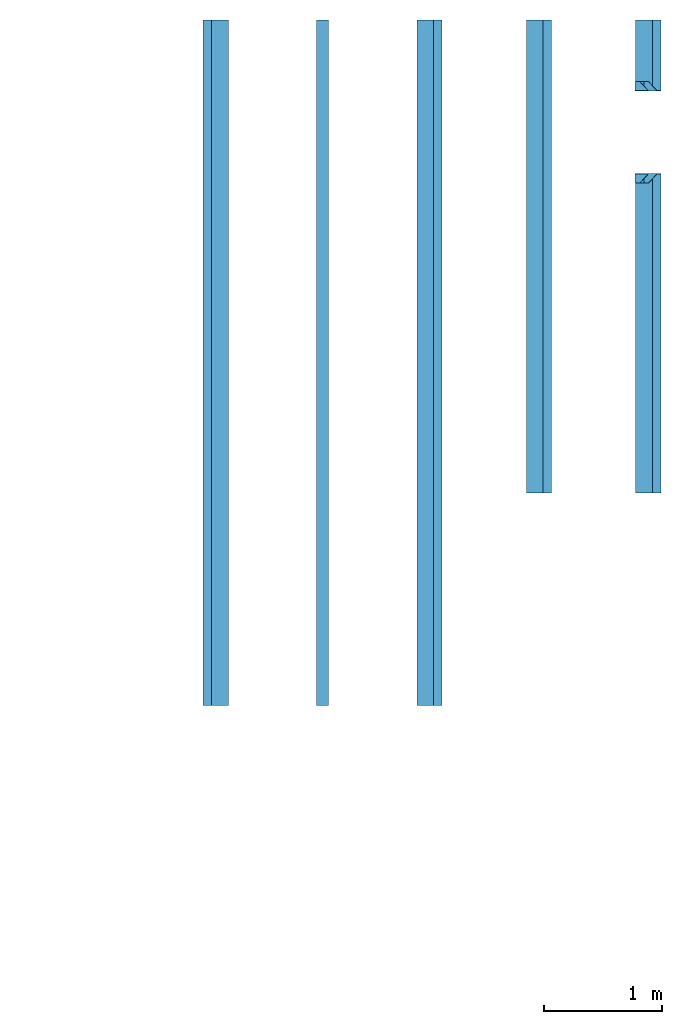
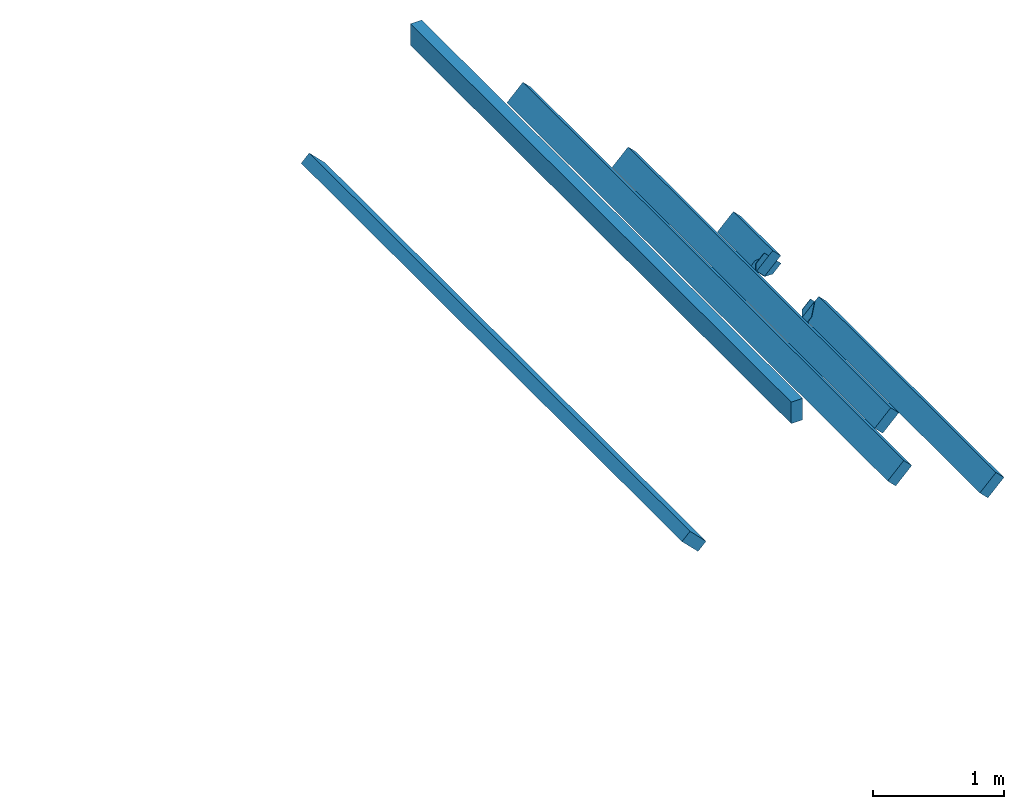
# Not in any storey, part 1 of 2: 6 beams, 2 discrete accessories, 1 element without a shape of its own.
"""IFC4 building model written with IfcOpenShell, lengths in millimetres."""

from ifc_helpers import new_model, si_unit, frame, origin_with_axes, place, context, subcontext, project, spatial, triangles, material, type_object, element, aggregate, save


model = new_model("IFC4")

# Units and contexts
model_context = context("Model", 3, world=origin_with_axes())
body_context = subcontext(model_context, "Body", "Model", "MODEL_VIEW")
ifc_project = project(units=[si_unit("LENGTHUNIT", "METRE", prefix="MILLI"), si_unit("AREAUNIT", "SQUARE_METRE"), si_unit("VOLUMEUNIT", "CUBIC_METRE")], contexts=[model_context])

# Sites, building
site_1_placement = place(None, origin_with_axes())
site_1 = spatial("IfcSite", under=ifc_project, at=site_1_placement, Name="environment - site", CompositionType="COMPLEX")
site_2_placement = place(site_1_placement, frame((5800.000000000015, 5800.000000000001, -1300.0000000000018), z_axis=(0.0, 0.0, 1.0), x_axis=(1.0, 0.0, 0.0)))
site_2 = spatial("IfcSite", under=site_1, at=site_2_placement, Name="house - site", CompositionType="PARTIAL")
building_placement = place(site_2_placement, frame((-2799.999999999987, -2799.9999999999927, 1300.0), z_axis=(0.0, 0.0, 1.0), x_axis=(1.0, 0.0, 0.0)))
building = spatial("IfcBuilding", under=site_2, at=building_placement, Name="Single-family house", CompositionType="ELEMENT")

# Roof, beams, discrete accessories
roof_type = type_object("IfcRoofType", Name="house - roof", PredefinedType="GABLE_ROOF")
roof_placement = place(building_placement, frame((-1.1550582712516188e-11, -2.3101165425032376e-11, 1800.0000000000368), z_axis=(0.0, 0.0, 1.0), x_axis=(1.0, 0.0, 0.0)))
roof = element("IfcRoof", 1, at=roof_placement, inside=building, type_object=roof_type, Name="house - roof", ObjectType="gable_roof")
ifc_material_1 = material(Name="wood_spruce_beam")
beam_type = type_object("IfcBeamType", Name="house - girder", PredefinedType="USERDEFINED")
beam_1_placement = place(roof_placement, frame((4748.22330470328, 1900.0000000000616, 544.6699141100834), z_axis=(5.962308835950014e-17, -1.0, -4.506746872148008e-17), x_axis=(0.7071067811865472, 0.0, -0.707106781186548)))
beam_1 = element("IfcBeam", 2, at=beam_1_placement, type_object=beam_type, material=ifc_material_1, Name="girder", ObjectType="girder_segment", context=body_context, shape_type="Tessellation", body=[
    triangles([(100.00000000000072, 200.00000000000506, -2699.9999999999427), (100.00000000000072, 1.4438228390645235e-12, 0.0), (99.99999999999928, -7.219114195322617e-13, -2699.9999999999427), (99.99999999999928, 200.00000000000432, 0.0), (100.00000000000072, 1.4438228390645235e-12, 0.0), (50.00000000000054, 1.4438228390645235e-12, -2699.9999999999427), (99.99999999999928, -7.219114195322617e-13, -2699.9999999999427), (-1.0828671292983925e-12, 1.7872629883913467e-29, -2699.9999999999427), (3.6095570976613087e-13, 1.4438228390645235e-12, 0.0), (49.9999999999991, 1.4438228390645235e-12, 0.0), (3.6095570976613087e-13, 1.4438228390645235e-12, 0.0), (3.6095570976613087e-13, 200.00000000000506, -2699.9999999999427), (-1.0828671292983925e-12, 1.7872629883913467e-29, -2699.9999999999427), (-1.0828671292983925e-12, 200.00000000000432, 0.0), (-1.0828671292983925e-12, 200.00000000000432, 0.0), (100.00000000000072, 200.00000000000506, -2699.9999999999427), (3.6095570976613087e-13, 200.00000000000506, -2699.9999999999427), (99.99999999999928, 200.00000000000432, 0.0), (3.6095570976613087e-13, 200.00000000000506, -2699.9999999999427), (50.00000000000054, 1.4438228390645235e-12, -2699.9999999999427), (-1.0828671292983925e-12, 1.7872629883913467e-29, -2699.9999999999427), (100.00000000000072, 200.00000000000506, -2699.9999999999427), (99.99999999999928, -7.219114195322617e-13, -2699.9999999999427), (3.6095570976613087e-13, 1.4438228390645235e-12, 0.0), (99.99999999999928, 200.00000000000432, 0.0), (-1.0828671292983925e-12, 200.00000000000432, 0.0), (49.9999999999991, 1.4438228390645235e-12, 0.0), (100.00000000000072, 1.4438228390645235e-12, 0.0)], [[1, 2, 3], [2, 1, 4], [5, 6, 7], [6, 5, 8], [8, 5, 9], [9, 5, 10], [11, 12, 13], [12, 11, 14], [15, 16, 17], [16, 15, 18], [19, 20, 21], [20, 19, 22], [20, 22, 23], [24, 25, 26], [25, 24, 27], [25, 27, 28]]),
])
beam_2_placement = place(roof_placement, frame((2968.9339828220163, 99.99999999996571, 2323.959235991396), z_axis=(-5.551115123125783e-17, -1.0, 3.925231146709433e-17), x_axis=(-0.7071067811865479, 6.700788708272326e-17, 0.7071067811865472)))
beam_2 = element("IfcBeam", 3, at=beam_2_placement, type_object=beam_type, material=ifc_material_1, Name="girder", ObjectType="girder_segment", context=body_context, shape_type="Tessellation", body=[
    triangles([(100.00000000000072, -200.00000000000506, -5799.999999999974), (100.00000000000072, -1.4438228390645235e-12, -6.162975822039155e-31), (99.99999999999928, 7.219114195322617e-13, -5799.999999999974), (99.99999999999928, -200.00000000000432, 1.7796490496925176e-44), (100.00000000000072, -1.4438228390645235e-12, -6.162975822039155e-31), (50.00000000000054, -1.4438228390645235e-12, -5799.999999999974), (99.99999999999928, 7.219114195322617e-13, -5799.999999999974), (-1.0828671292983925e-12, 0.0, -5799.999999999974), (3.6095570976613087e-13, -1.4438228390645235e-12, 2.224561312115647e-45), (49.9999999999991, -1.4438228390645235e-12, -3.081487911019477e-31), (3.6095570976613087e-13, -1.4438228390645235e-12, 2.224561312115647e-45), (3.609557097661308e-13, -200.00000000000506, -5799.999999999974), (-1.0828671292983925e-12, 0.0, -5799.999999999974), (-1.0828671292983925e-12, -200.00000000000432, 6.162975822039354e-31), (-1.0828671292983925e-12, -200.00000000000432, 6.162975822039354e-31), (100.00000000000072, -200.00000000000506, -5799.999999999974), (3.609557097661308e-13, -200.00000000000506, -5799.999999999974), (99.99999999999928, -200.00000000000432, 1.7796490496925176e-44), (3.609557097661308e-13, -200.00000000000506, -5799.999999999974), (50.00000000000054, -1.4438228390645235e-12, -5799.999999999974), (-1.0828671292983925e-12, 0.0, -5799.999999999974), (100.00000000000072, -200.00000000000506, -5799.999999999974), (99.99999999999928, 7.219114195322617e-13, -5799.999999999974), (3.6095570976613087e-13, -1.4438228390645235e-12, 2.224561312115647e-45), (99.99999999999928, -200.00000000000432, 1.7796490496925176e-44), (-1.0828671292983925e-12, -200.00000000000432, 6.162975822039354e-31), (49.9999999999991, -1.4438228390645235e-12, -3.081487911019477e-31), (100.00000000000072, -1.4438228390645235e-12, -6.162975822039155e-31)], [[3, 2, 1], [4, 1, 2], [7, 6, 5], [8, 5, 6], [9, 5, 8], [10, 5, 9], [13, 12, 11], [14, 11, 12], [17, 16, 15], [18, 15, 16], [21, 20, 19], [22, 19, 20], [23, 22, 20], [26, 25, 24], [27, 24, 25], [28, 27, 25]]),
])
beam_3_placement = place(roof_placement, frame((4748.22330470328, 5300.000000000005, 544.6699141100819), z_axis=(3.353798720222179e-16, -1.0, -3.4018669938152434e-16), x_axis=(0.7071067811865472, -5.551115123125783e-17, -0.707106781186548)))
beam_3 = element("IfcBeam", 4, at=beam_3_placement, type_object=beam_type, material=ifc_material_1, Name="girder", ObjectType="girder_segment", context=body_context, shape_type="Tessellation", body=[
    triangles([(100.00000000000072, 200.00000000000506, -599.9999999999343), (100.00000000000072, 1.4438228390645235e-12, 0.0), (99.99999999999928, -7.219114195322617e-13, -599.9999999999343), (99.99999999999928, 200.00000000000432, 0.0), (100.00000000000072, 1.4438228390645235e-12, 0.0), (50.00000000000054, 1.4438228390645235e-12, -599.9999999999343), (99.99999999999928, -7.219114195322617e-13, -599.9999999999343), (-1.0828671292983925e-12, 0.0, -599.9999999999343), (3.6095570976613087e-13, 1.4438228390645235e-12, 0.0), (49.9999999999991, 1.4438228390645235e-12, 0.0), (3.6095570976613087e-13, 1.4438228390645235e-12, 0.0), (3.6095570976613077e-13, 200.00000000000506, -599.9999999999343), (-1.0828671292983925e-12, 0.0, -599.9999999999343), (-1.0828671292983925e-12, 200.00000000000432, 0.0), (-1.0828671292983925e-12, 200.00000000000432, 0.0), (100.00000000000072, 200.00000000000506, -599.9999999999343), (3.6095570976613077e-13, 200.00000000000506, -599.9999999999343), (99.99999999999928, 200.00000000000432, 0.0), (3.6095570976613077e-13, 200.00000000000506, -599.9999999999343), (50.00000000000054, 1.4438228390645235e-12, -599.9999999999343), (-1.0828671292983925e-12, 0.0, -599.9999999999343), (100.00000000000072, 200.00000000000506, -599.9999999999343), (99.99999999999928, -7.219114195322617e-13, -599.9999999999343), (3.6095570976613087e-13, 1.4438228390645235e-12, 0.0), (99.99999999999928, 200.00000000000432, 0.0), (-1.0828671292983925e-12, 200.00000000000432, 0.0), (49.9999999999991, 1.4438228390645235e-12, 0.0), (100.00000000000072, 1.4438228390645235e-12, 0.0)], [[1, 2, 3], [2, 1, 4], [5, 6, 7], [6, 5, 8], [8, 5, 9], [9, 5, 10], [11, 12, 13], [12, 11, 14], [15, 16, 17], [16, 15, 18], [19, 20, 21], [20, 19, 22], [20, 22, 23], [24, 25, 26], [25, 24, 27], [25, 27, 28]]),
])
beam_4_placement = place(roof_placement, frame((3823.2233047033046, 1900.0000000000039, 1469.6699141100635), z_axis=(0.0, -1.0, -1.7663540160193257e-17), x_axis=(0.7071067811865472, 0.0, -0.707106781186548)))
beam_4 = element("IfcBeam", 5, at=beam_4_placement, type_object=beam_type, material=ifc_material_1, Name="girder", ObjectType="girder_segment", context=body_context, shape_type="Tessellation", body=[
    triangles([(100.00000000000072, 200.00000000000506, -3999.9999999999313), (100.00000000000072, 1.4438228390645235e-12, 0.0), (99.99999999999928, -7.219114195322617e-13, -3999.9999999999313), (99.99999999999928, 200.00000000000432, 0.0), (100.00000000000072, 1.4438228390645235e-12, 0.0), (50.00000000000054, 1.4438228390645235e-12, -3999.9999999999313), (99.99999999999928, -7.219114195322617e-13, -3999.9999999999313), (-1.0828671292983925e-12, 0.0, -3999.9999999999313), (3.6095570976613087e-13, 1.4438228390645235e-12, 0.0), (49.9999999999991, 1.4438228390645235e-12, 0.0), (3.6095570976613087e-13, 1.4438228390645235e-12, 0.0), (3.6095570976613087e-13, 200.00000000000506, -3999.9999999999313), (-1.0828671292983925e-12, 0.0, -3999.9999999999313), (-1.0828671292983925e-12, 200.00000000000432, 0.0), (-1.0828671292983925e-12, 200.00000000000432, 0.0), (100.00000000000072, 200.00000000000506, -3999.9999999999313), (3.6095570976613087e-13, 200.00000000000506, -3999.9999999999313), (99.99999999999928, 200.00000000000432, 0.0), (3.6095570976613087e-13, 200.00000000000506, -3999.9999999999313), (50.00000000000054, 1.4438228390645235e-12, -3999.9999999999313), (-1.0828671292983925e-12, 0.0, -3999.9999999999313), (100.00000000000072, 200.00000000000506, -3999.9999999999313), (99.99999999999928, -7.219114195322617e-13, -3999.9999999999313), (3.6095570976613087e-13, 1.4438228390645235e-12, 0.0), (99.99999999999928, 200.00000000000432, 0.0), (-1.0828671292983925e-12, 200.00000000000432, 0.0), (49.9999999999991, 1.4438228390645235e-12, 0.0), (100.00000000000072, 1.4438228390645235e-12, 0.0)], [[1, 2, 3], [2, 1, 4], [5, 6, 7], [6, 5, 8], [8, 5, 9], [9, 5, 10], [11, 12, 13], [12, 11, 14], [15, 16, 17], [16, 15, 18], [19, 20, 21], [20, 19, 22], [20, 22, 23], [24, 25, 26], [25, 24, 27], [25, 27, 28]]),
])
beam_5_placement = place(roof_placement, frame((2050.0000000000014, 99.99999999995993, 3225.7359312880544), z_axis=(5.551115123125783e-17, -1.0, -2.3801837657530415e-32), x_axis=(1.0, 5.551115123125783e-17, -8.881784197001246e-16)))
beam_5 = element("IfcBeam", 6, at=beam_5_placement, type_object=beam_type, material=ifc_material_1, Name="girder", ObjectType="girder_segment", context=body_context, shape_type="Tessellation", body=[
    triangles([(100.00000000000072, 200.00000000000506, -5799.999999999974), (100.00000000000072, 1.4438228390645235e-12, 2.114027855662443e-45), (99.99999999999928, -7.219114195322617e-13, -5799.999999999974), (99.99999999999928, 200.00000000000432, 2.1140278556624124e-45), (100.00000000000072, 1.4438228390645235e-12, 2.114027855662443e-45), (50.00000000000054, 1.4438228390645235e-12, -5799.999999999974), (99.99999999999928, -7.219114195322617e-13, -5799.999999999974), (-1.0828671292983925e-12, 1.5874084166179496e-44, -5799.999999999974), (3.6095570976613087e-13, 1.4438228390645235e-12, 7.630704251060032e-60), (49.9999999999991, 1.4438228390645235e-12, 1.0570139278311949e-45), (3.6095570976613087e-13, 1.4438228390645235e-12, 7.630704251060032e-60), (3.6095570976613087e-13, 200.00000000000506, -5799.999999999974), (-1.0828671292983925e-12, 1.5874084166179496e-44, -5799.999999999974), (-1.0828671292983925e-12, 200.00000000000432, -2.2892112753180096e-59), (-1.0828671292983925e-12, 200.00000000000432, -2.2892112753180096e-59), (100.00000000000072, 200.00000000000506, -5799.999999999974), (3.6095570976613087e-13, 200.00000000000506, -5799.999999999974), (99.99999999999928, 200.00000000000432, 2.1140278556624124e-45), (3.6095570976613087e-13, 200.00000000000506, -5799.999999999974), (50.00000000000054, 1.4438228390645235e-12, -5799.999999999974), (-1.0828671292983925e-12, 1.5874084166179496e-44, -5799.999999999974), (100.00000000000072, 200.00000000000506, -5799.999999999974), (99.99999999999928, -7.219114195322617e-13, -5799.999999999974), (3.6095570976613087e-13, 1.4438228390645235e-12, 7.630704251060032e-60), (99.99999999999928, 200.00000000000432, 2.1140278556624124e-45), (-1.0828671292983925e-12, 200.00000000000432, -2.2892112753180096e-59), (49.9999999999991, 1.4438228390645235e-12, 1.0570139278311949e-45), (100.00000000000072, 1.4438228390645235e-12, 2.114027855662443e-45)], [[1, 2, 3], [2, 1, 4], [5, 6, 7], [6, 5, 8], [8, 5, 9], [9, 5, 10], [11, 12, 13], [12, 11, 14], [15, 16, 17], [16, 15, 18], [19, 20, 21], [20, 19, 22], [20, 22, 23], [24, 25, 26], [25, 24, 27], [25, 27, 28]]),
])
beam_6_placement = place(roof_placement, frame((1231.06601717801, 99.99999999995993, 2323.9592359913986), z_axis=(0.0, -1.0, 1.880229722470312e-33), x_axis=(0.7071067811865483, 1.3295231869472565e-33, 0.7071067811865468)))
beam_6 = element("IfcBeam", 7, at=beam_6_placement, type_object=beam_type, material=ifc_material_1, Name="girder", ObjectType="girder_segment", context=body_context, shape_type="Tessellation", body=[
    triangles([(100.00000000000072, 200.00000000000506, -5799.999999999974), (100.00000000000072, 1.4438228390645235e-12, 0.0), (99.99999999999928, -7.219114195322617e-13, -5799.999999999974), (99.99999999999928, 200.00000000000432, 0.0), (100.00000000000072, 1.4438228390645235e-12, 0.0), (50.00000000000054, 1.4438228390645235e-12, -5799.999999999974), (99.99999999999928, -7.219114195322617e-13, -5799.999999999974), (-1.0828671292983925e-12, -9.921302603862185e-46, -5799.999999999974), (3.6095570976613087e-13, 1.4438228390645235e-12, 0.0), (49.9999999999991, 1.4438228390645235e-12, 0.0), (3.6095570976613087e-13, 1.4438228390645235e-12, 0.0), (3.6095570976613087e-13, 200.00000000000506, -5799.999999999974), (-1.0828671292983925e-12, -9.921302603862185e-46, -5799.999999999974), (-1.0828671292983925e-12, 200.00000000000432, 0.0), (-1.0828671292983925e-12, 200.00000000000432, 0.0), (100.00000000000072, 200.00000000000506, -5799.999999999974), (3.6095570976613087e-13, 200.00000000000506, -5799.999999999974), (99.99999999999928, 200.00000000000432, 0.0), (3.6095570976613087e-13, 200.00000000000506, -5799.999999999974), (50.00000000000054, 1.4438228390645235e-12, -5799.999999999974), (-1.0828671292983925e-12, -9.921302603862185e-46, -5799.999999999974), (100.00000000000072, 200.00000000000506, -5799.999999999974), (99.99999999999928, -7.219114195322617e-13, -5799.999999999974), (3.6095570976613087e-13, 1.4438228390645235e-12, 0.0), (99.99999999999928, 200.00000000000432, 0.0), (-1.0828671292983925e-12, 200.00000000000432, 0.0), (49.9999999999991, 1.4438228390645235e-12, 0.0), (100.00000000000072, 1.4438228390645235e-12, 0.0)], [[1, 2, 3], [2, 1, 4], [5, 6, 7], [6, 5, 8], [8, 5, 9], [9, 5, 10], [11, 12, 13], [12, 11, 14], [15, 16, 17], [16, 15, 18], [19, 20, 21], [20, 19, 22], [20, 22, 23], [24, 25, 26], [25, 24, 27], [25, 27, 28]]),
])
ifc_material_2 = material(Name="metal_steel-galvanized")
discrete_accessory_type = type_object("IfcDiscreteAccessoryType", Name="beam shoe", PredefinedType="SHOE")
discrete_accessory_1_placement = place(roof_placement, frame((4783.578643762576, 5299.999999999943, 509.3145750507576), z_axis=(0.0, 1.0, 0.0), x_axis=(0.7071067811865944, 0.0, -0.7071067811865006)))
discrete_accessory_1 = element("IfcDiscreteAccessory", 8, at=discrete_accessory_1_placement, type_object=discrete_accessory_type, material=ifc_material_2, Name="beam shoe", ObjectType="shoe", context=body_context, shape_type="Tessellation", body=[
    triangles([(53.99999999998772, -149.99999999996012, 6.064055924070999e-11), (50.000000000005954, 5.775291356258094e-12, 0.0), (50.00000000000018, -149.99999999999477, 0.0), (-103.99999999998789, -149.9999999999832, -5.775291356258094e-12), (-54.000000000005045, 4.000000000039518, 8.66293703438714e-12), (-103.99999999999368, -45.99999999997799, -5.775291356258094e-12), (-53.99999999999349, -149.9999999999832, 0.0), (-49.999999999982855, 1.732587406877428e-11, 0.0), (53.99999999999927, 4.000000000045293, 4.620233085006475e-11), (-49.999999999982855, -149.99999999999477, 0.0), (104.00000000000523, -149.9999999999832, 6.064055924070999e-11), (104.000000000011, -45.99999999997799, 6.064055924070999e-11), (-53.99999999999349, 4.000000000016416, 80.00000000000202), (-53.99999999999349, -149.9999999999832, 4.000000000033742), (-53.99999999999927, 4.000000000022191, 4.000000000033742), (-53.99999999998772, -49.99999999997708, 80.00000000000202), (-49.999999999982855, 1.732587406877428e-11, 80.00000000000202), (50.000000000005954, 5.775291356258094e-12, 0.0), (-49.999999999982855, 1.732587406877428e-11, 0.0), (50.000000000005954, 5.775291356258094e-12, 80.00000000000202), (49.9999999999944, -49.999999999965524, 80.00000000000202), (50.000000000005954, 5.775291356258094e-12, 0.0), (50.000000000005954, 5.775291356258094e-12, 80.00000000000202), (50.00000000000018, -149.99999999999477, 0.0), (50.000000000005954, -149.99999999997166, 4.000000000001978), (54.000000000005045, -49.99999999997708, 80.00000000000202), (50.000000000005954, -149.99999999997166, 4.000000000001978), (49.9999999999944, -49.999999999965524, 80.00000000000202), (53.99999999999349, -149.9999999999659, 3.99999999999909), (-53.99999999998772, -49.99999999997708, 80.00000000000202), (-49.9999999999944, -149.99999999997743, 4.000000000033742), (-53.99999999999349, -149.9999999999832, 4.000000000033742), (-49.99999999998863, -49.9999999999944, 80.00000000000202), (-53.99999999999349, 4.000000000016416, 80.00000000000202), (-49.999999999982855, 1.732587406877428e-11, 80.00000000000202), (-53.99999999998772, -49.99999999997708, 80.00000000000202), (54.000000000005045, 4.000000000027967, 80.00000000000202), (-49.99999999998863, -49.9999999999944, 80.00000000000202), (50.000000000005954, 5.775291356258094e-12, 80.00000000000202), (54.000000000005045, -49.99999999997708, 80.00000000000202), (49.9999999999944, -49.999999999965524, 80.00000000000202), (-49.999999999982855, -149.99999999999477, 0.0), (-49.999999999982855, 1.732587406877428e-11, 80.00000000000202), (-49.999999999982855, 1.732587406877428e-11, 0.0), (-49.99999999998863, -49.9999999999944, 80.00000000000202), (-49.9999999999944, -149.99999999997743, 4.000000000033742), (50.000000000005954, -149.99999999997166, 4.000000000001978), (53.99999999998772, -149.99999999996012, 6.064055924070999e-11), (50.00000000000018, -149.99999999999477, 0.0), (53.99999999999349, -149.9999999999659, 3.99999999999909), (-103.99999999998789, -149.9999999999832, 4.0000000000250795), (-53.99999999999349, -149.9999999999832, 0.0), (-103.99999999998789, -149.9999999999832, -5.775291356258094e-12), (-53.99999999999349, -149.9999999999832, 4.000000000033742), (53.99999999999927, 4.000000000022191, 3.99999999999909), (54.000000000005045, -49.99999999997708, 80.00000000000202), (54.000000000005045, 4.000000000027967, 80.00000000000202), (53.99999999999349, -149.9999999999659, 3.99999999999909), (104.000000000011, -45.99999999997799, 6.064055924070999e-11), (103.99999999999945, -149.99999999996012, 4.000000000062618), (103.99999999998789, -45.999999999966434, 4.000000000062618), (104.00000000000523, -149.9999999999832, 6.064055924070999e-11), (53.99999999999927, 4.000000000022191, 3.99999999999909), (103.99999999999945, -149.99999999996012, 4.000000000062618), (53.99999999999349, -149.9999999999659, 3.99999999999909), (103.99999999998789, -45.999999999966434, 4.000000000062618), (-103.99999999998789, -149.9999999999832, 4.0000000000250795), (-103.99999999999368, -45.99999999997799, -5.775291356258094e-12), (-103.99999999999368, -45.99999999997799, 4.0000000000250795), (-103.99999999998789, -149.9999999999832, -5.775291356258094e-12), (-53.99999999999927, 4.000000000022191, 4.000000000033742), (-103.99999999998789, -149.9999999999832, 4.0000000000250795), (-103.99999999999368, -45.99999999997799, 4.0000000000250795), (-53.99999999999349, -149.9999999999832, 4.000000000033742), (-53.99999999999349, -149.9999999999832, 4.000000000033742), (-49.999999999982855, -149.99999999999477, 0.0), (-53.99999999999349, -149.9999999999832, 0.0), (-49.9999999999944, -149.99999999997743, 4.000000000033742), (53.99999999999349, -149.9999999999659, 3.99999999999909), (104.00000000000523, -149.9999999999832, 6.064055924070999e-11), (53.99999999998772, -149.99999999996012, 6.064055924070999e-11), (103.99999999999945, -149.99999999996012, 4.000000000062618), (53.99999999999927, 4.000000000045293, 4.620233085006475e-11), (-53.99999999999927, 4.000000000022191, 4.000000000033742), (-54.000000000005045, 4.000000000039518, 8.66293703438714e-12), (53.99999999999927, 4.000000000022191, 3.99999999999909), (54.000000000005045, 4.000000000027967, 80.00000000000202), (-53.99999999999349, 4.000000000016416, 80.00000000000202), (104.000000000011, -45.99999999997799, 6.064055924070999e-11), (53.99999999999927, 4.000000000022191, 3.99999999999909), (53.99999999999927, 4.000000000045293, 4.620233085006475e-11), (103.99999999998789, -45.999999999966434, 4.000000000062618), (-53.99999999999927, 4.000000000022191, 4.000000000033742), (-103.99999999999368, -45.99999999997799, -5.775291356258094e-12), (-54.000000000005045, 4.000000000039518, 8.66293703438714e-12), (-103.99999999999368, -45.99999999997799, 4.0000000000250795)], [[3, 2, 1], [6, 5, 4], [7, 4, 5], [8, 7, 5], [9, 8, 5], [10, 7, 8], [2, 8, 9], [1, 2, 9], [11, 1, 9], [12, 11, 9], [15, 14, 13], [16, 13, 14], [19, 18, 17], [20, 17, 18], [23, 22, 21], [24, 21, 22], [25, 21, 24], [28, 27, 26], [29, 26, 27], [32, 31, 30], [33, 30, 31], [36, 35, 34], [37, 34, 35], [38, 35, 36], [39, 37, 35], [41, 40, 39], [37, 39, 40], [44, 43, 42], [45, 42, 43], [46, 42, 45], [49, 48, 47], [50, 47, 48], [53, 52, 51], [54, 51, 52], [57, 56, 55], [58, 55, 56], [61, 60, 59], [62, 59, 60], [65, 64, 63], [66, 63, 64], [69, 68, 67], [70, 67, 68], [73, 72, 71], [74, 71, 72], [77, 76, 75], [78, 75, 76], [81, 80, 79], [82, 79, 80], [85, 84, 83], [86, 83, 84], [87, 86, 84], [88, 87, 84], [91, 90, 89], [92, 89, 90], [95, 94, 93], [96, 93, 94]]),
])
discrete_accessory_2_placement = place(roof_placement, frame((4783.578643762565, 4600.000000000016, 509.3145750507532), z_axis=(0.0, -1.0, 0.0), x_axis=(0.7071067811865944, 0.0, -0.7071067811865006)))
discrete_accessory_2 = element("IfcDiscreteAccessory", 9, at=discrete_accessory_2_placement, type_object=discrete_accessory_type, material=ifc_material_2, Name="beam shoe", ObjectType="shoe", context=body_context, shape_type="Tessellation", body=[
    triangles([(53.99999999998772, 149.99999999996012, 6.064055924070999e-11), (50.000000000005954, -5.775291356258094e-12, 0.0), (50.00000000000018, 149.99999999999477, 0.0), (-103.99999999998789, 149.9999999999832, -5.775291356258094e-12), (-54.000000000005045, -4.000000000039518, 8.66293703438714e-12), (-103.99999999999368, 45.99999999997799, -5.775291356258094e-12), (-53.99999999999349, 149.9999999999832, 0.0), (-49.999999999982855, -1.732587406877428e-11, 0.0), (53.99999999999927, -4.000000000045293, 4.620233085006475e-11), (-49.999999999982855, 149.99999999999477, 0.0), (104.00000000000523, 149.9999999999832, 6.064055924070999e-11), (104.000000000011, 45.99999999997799, 6.064055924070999e-11), (-53.99999999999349, -4.000000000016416, 80.00000000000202), (-53.99999999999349, 149.9999999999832, 4.000000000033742), (-53.99999999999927, -4.000000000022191, 4.000000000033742), (-53.99999999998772, 49.99999999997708, 80.00000000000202), (-49.999999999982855, -1.732587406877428e-11, 80.00000000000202), (50.000000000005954, -5.775291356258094e-12, 0.0), (-49.999999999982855, -1.732587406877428e-11, 0.0), (50.000000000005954, -5.775291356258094e-12, 80.00000000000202), (49.9999999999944, 49.999999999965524, 80.00000000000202), (50.000000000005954, -5.775291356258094e-12, 0.0), (50.000000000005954, -5.775291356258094e-12, 80.00000000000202), (50.00000000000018, 149.99999999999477, 0.0), (50.000000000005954, 149.99999999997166, 4.000000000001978), (54.000000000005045, 49.99999999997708, 80.00000000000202), (50.000000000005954, 149.99999999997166, 4.000000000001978), (49.9999999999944, 49.999999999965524, 80.00000000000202), (53.99999999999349, 149.9999999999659, 3.99999999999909), (-53.99999999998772, 49.99999999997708, 80.00000000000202), (-49.9999999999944, 149.99999999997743, 4.000000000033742), (-53.99999999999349, 149.9999999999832, 4.000000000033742), (-49.99999999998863, 49.9999999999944, 80.00000000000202), (-53.99999999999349, -4.000000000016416, 80.00000000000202), (-49.999999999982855, -1.732587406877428e-11, 80.00000000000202), (-53.99999999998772, 49.99999999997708, 80.00000000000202), (54.000000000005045, -4.000000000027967, 80.00000000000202), (-49.99999999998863, 49.9999999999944, 80.00000000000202), (50.000000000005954, -5.775291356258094e-12, 80.00000000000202), (54.000000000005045, 49.99999999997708, 80.00000000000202), (49.9999999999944, 49.999999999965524, 80.00000000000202), (-49.999999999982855, 149.99999999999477, 0.0), (-49.999999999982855, -1.732587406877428e-11, 80.00000000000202), (-49.999999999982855, -1.732587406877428e-11, 0.0), (-49.99999999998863, 49.9999999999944, 80.00000000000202), (-49.9999999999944, 149.99999999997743, 4.000000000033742), (50.000000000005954, 149.99999999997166, 4.000000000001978), (53.99999999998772, 149.99999999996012, 6.064055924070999e-11), (50.00000000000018, 149.99999999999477, 0.0), (53.99999999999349, 149.9999999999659, 3.99999999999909), (-103.99999999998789, 149.9999999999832, 4.0000000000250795), (-53.99999999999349, 149.9999999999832, 0.0), (-103.99999999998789, 149.9999999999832, -5.775291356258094e-12), (-53.99999999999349, 149.9999999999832, 4.000000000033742), (53.99999999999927, -4.000000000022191, 3.99999999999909), (54.000000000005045, 49.99999999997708, 80.00000000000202), (54.000000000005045, -4.000000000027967, 80.00000000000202), (53.99999999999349, 149.9999999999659, 3.99999999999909), (104.000000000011, 45.99999999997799, 6.064055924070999e-11), (103.99999999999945, 149.99999999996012, 4.000000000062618), (103.99999999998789, 45.999999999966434, 4.000000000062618), (104.00000000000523, 149.9999999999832, 6.064055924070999e-11), (53.99999999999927, -4.000000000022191, 3.99999999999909), (103.99999999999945, 149.99999999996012, 4.000000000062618), (53.99999999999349, 149.9999999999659, 3.99999999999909), (103.99999999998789, 45.999999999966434, 4.000000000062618), (-103.99999999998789, 149.9999999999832, 4.0000000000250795), (-103.99999999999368, 45.99999999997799, -5.775291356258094e-12), (-103.99999999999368, 45.99999999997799, 4.0000000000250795), (-103.99999999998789, 149.9999999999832, -5.775291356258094e-12), (-53.99999999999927, -4.000000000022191, 4.000000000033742), (-103.99999999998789, 149.9999999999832, 4.0000000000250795), (-103.99999999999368, 45.99999999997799, 4.0000000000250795), (-53.99999999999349, 149.9999999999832, 4.000000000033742), (-53.99999999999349, 149.9999999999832, 4.000000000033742), (-49.999999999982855, 149.99999999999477, 0.0), (-53.99999999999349, 149.9999999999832, 0.0), (-49.9999999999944, 149.99999999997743, 4.000000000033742), (53.99999999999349, 149.9999999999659, 3.99999999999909), (104.00000000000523, 149.9999999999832, 6.064055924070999e-11), (53.99999999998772, 149.99999999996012, 6.064055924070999e-11), (103.99999999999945, 149.99999999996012, 4.000000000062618), (53.99999999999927, -4.000000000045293, 4.620233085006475e-11), (-53.99999999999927, -4.000000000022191, 4.000000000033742), (-54.000000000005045, -4.000000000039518, 8.66293703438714e-12), (53.99999999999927, -4.000000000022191, 3.99999999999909), (54.000000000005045, -4.000000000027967, 80.00000000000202), (-53.99999999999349, -4.000000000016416, 80.00000000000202), (104.000000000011, 45.99999999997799, 6.064055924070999e-11), (53.99999999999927, -4.000000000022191, 3.99999999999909), (53.99999999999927, -4.000000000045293, 4.620233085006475e-11), (103.99999999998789, 45.999999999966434, 4.000000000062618), (-53.99999999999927, -4.000000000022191, 4.000000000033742), (-103.99999999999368, 45.99999999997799, -5.775291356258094e-12), (-54.000000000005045, -4.000000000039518, 8.66293703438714e-12), (-103.99999999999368, 45.99999999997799, 4.0000000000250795)], [[1, 2, 3], [4, 5, 6], [5, 4, 7], [5, 7, 8], [5, 8, 9], [8, 7, 10], [9, 8, 2], [9, 2, 1], [9, 1, 11], [9, 11, 12], [13, 14, 15], [14, 13, 16], [17, 18, 19], [18, 17, 20], [21, 22, 23], [22, 21, 24], [24, 21, 25], [26, 27, 28], [27, 26, 29], [30, 31, 32], [31, 30, 33], [34, 35, 36], [35, 34, 37], [36, 35, 38], [35, 37, 39], [39, 40, 41], [40, 39, 37], [42, 43, 44], [43, 42, 45], [45, 42, 46], [47, 48, 49], [48, 47, 50], [51, 52, 53], [52, 51, 54], [55, 56, 57], [56, 55, 58], [59, 60, 61], [60, 59, 62], [63, 64, 65], [64, 63, 66], [67, 68, 69], [68, 67, 70], [71, 72, 73], [72, 71, 74], [75, 76, 77], [76, 75, 78], [79, 80, 81], [80, 79, 82], [83, 84, 85], [84, 83, 86], [84, 86, 87], [84, 87, 88], [89, 90, 91], [90, 89, 92], [93, 94, 95], [94, 93, 96]]),
])
aggregate(roof, [beam_1, beam_2, beam_3, beam_4, beam_5, beam_6, discrete_accessory_1, discrete_accessory_2])

save(model, "model.ifc")
